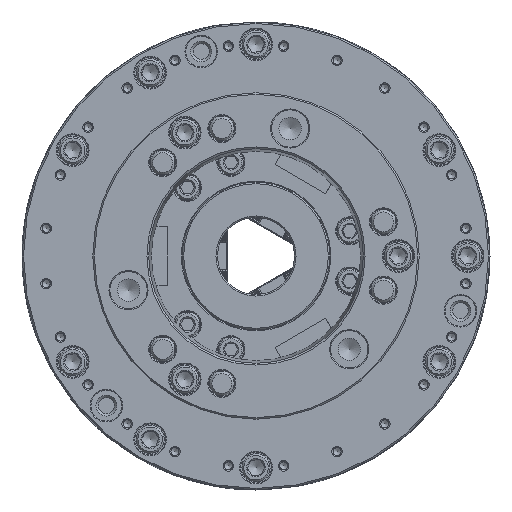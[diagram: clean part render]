
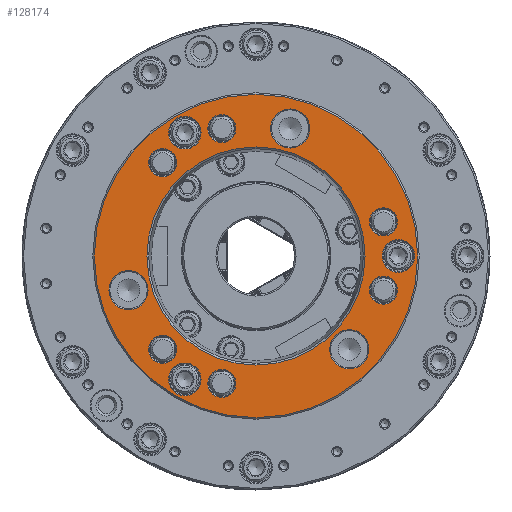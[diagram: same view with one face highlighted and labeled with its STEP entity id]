
A CAD part, left-side view. The second image highlights one B-rep face of the part: STEP entity #128174.
In plain terms, the highlighted planar face has unit normal (-1, 0, 0).
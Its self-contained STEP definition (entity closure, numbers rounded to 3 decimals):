
#539 = ORIENTED_EDGE ( 'NONE', *, *, #125011, .F. ) ;
#4553 = EDGE_LOOP ( 'NONE', ( #539 ) ) ;
#5329 = DIRECTION ( 'NONE',  ( 1., 0., 0. ) ) ;
#5654 = ORIENTED_EDGE ( 'NONE', *, *, #88174, .F. ) ;
#6091 = CIRCLE ( 'NONE', #64908, 10.6 ) ;
#6170 = VERTEX_POINT ( 'NONE', #49672 ) ;
#6752 = FACE_BOUND ( 'NONE', #137012, .T. ) ;
#6815 = EDGE_LOOP ( 'NONE', ( #113055 ) ) ;
#9761 = DIRECTION ( 'NONE',  ( -1., 0., 0. ) ) ;
#10918 = EDGE_CURVE ( 'NONE', #101487, #101487, #92688, .T. ) ;
#10974 = ORIENTED_EDGE ( 'NONE', *, *, #126502, .F. ) ;
#12929 = ORIENTED_EDGE ( 'NONE', *, *, #134703, .F. ) ;
#13613 = ORIENTED_EDGE ( 'NONE', *, *, #25719, .T. ) ;
#14922 = EDGE_LOOP ( 'NONE', ( #13613 ) ) ;
#16361 = FACE_BOUND ( 'NONE', #45541, .T. ) ;
#17038 = DIRECTION ( 'NONE',  ( 0., 0., 1. ) ) ;
#17748 = CIRCLE ( 'NONE', #121489, 10.6 ) ;
#18181 = EDGE_LOOP ( 'NONE', ( #145441 ) ) ;
#18368 = AXIS2_PLACEMENT_3D ( 'NONE', #79436, #30235, #75202 ) ;
#18403 = DIRECTION ( 'NONE',  ( 0., 0., 1. ) ) ;
#18479 = CARTESIAN_POINT ( 'NONE',  ( -125., -82.804, 22.187 ) ) ;
#19378 = VERTEX_POINT ( 'NONE', #64309 ) ;
#19409 = CARTESIAN_POINT ( 'NONE',  ( -125., -82.804, -22.187 ) ) ;
#19763 = CARTESIAN_POINT ( 'NONE',  ( -125., 22.187, 82.804 ) ) ;
#22798 = DIRECTION ( 'NONE',  ( 0., 0., 1. ) ) ;
#24456 = CARTESIAN_POINT ( 'NONE',  ( -125., 46.25, -69.507 ) ) ;
#25719 = EDGE_CURVE ( 'NONE', #85077, #85077, #60617, .T. ) ;
#27342 = CARTESIAN_POINT ( 'NONE',  ( -125., -92.5, 10.6 ) ) ;
#27423 = FACE_BOUND ( 'NONE', #138158, .T. ) ;
#27552 = CARTESIAN_POINT ( 'NONE',  ( -125., 46.25, 90.707 ) ) ;
#27678 = AXIS2_PLACEMENT_3D ( 'NONE', #36596, #134718, #92705 ) ;
#27696 = DIRECTION ( 'NONE',  ( 0., 0., -1. ) ) ;
#28176 = EDGE_CURVE ( 'NONE', #74001, #74001, #140085, .T. ) ;
#28875 = FACE_BOUND ( 'NONE', #61546, .T. ) ;
#29909 = CARTESIAN_POINT ( 'NONE',  ( -125., 0., 0. ) ) ;
#30235 = DIRECTION ( 'NONE',  ( -1., 0., 0. ) ) ;
#30646 = CARTESIAN_POINT ( 'NONE',  ( -125., -82.804, -13.087 ) ) ;
#30662 = EDGE_CURVE ( 'NONE', #6170, #6170, #64703, .T. ) ;
#32816 = ORIENTED_EDGE ( 'NONE', *, *, #30662, .T. ) ;
#33604 = EDGE_LOOP ( 'NONE', ( #96140 ) ) ;
#36596 = CARTESIAN_POINT ( 'NONE',  ( -125., -60.617, -60.617 ) ) ;
#38660 = ORIENTED_EDGE ( 'NONE', *, *, #28176, .F. ) ;
#39188 = FACE_BOUND ( 'NONE', #63906, .T. ) ;
#39191 = AXIS2_PLACEMENT_3D ( 'NONE', #84212, #5329, #107808 ) ;
#40649 = FACE_BOUND ( 'NONE', #14922, .T. ) ;
#41283 = DIRECTION ( 'NONE',  ( 1., 0., 0. ) ) ;
#42047 = VERTEX_POINT ( 'NONE', #87072 ) ;
#42384 = AXIS2_PLACEMENT_3D ( 'NONE', #19763, #75769, #142861 ) ;
#43790 = CIRCLE ( 'NONE', #97974, 12.705 ) ;
#44648 = CIRCLE ( 'NONE', #94322, 70.861 ) ;
#44667 = ORIENTED_EDGE ( 'NONE', *, *, #76300, .T. ) ;
#45541 = EDGE_LOOP ( 'NONE', ( #38660 ) ) ;
#47351 = EDGE_LOOP ( 'NONE', ( #10974 ) ) ;
#48280 = AXIS2_PLACEMENT_3D ( 'NONE', #73408, #119846, #27696 ) ;
#48832 = EDGE_CURVE ( 'NONE', #68039, #68039, #73376, .T. ) ;
#49535 = FACE_BOUND ( 'NONE', #4553, .T. ) ;
#49672 = CARTESIAN_POINT ( 'NONE',  ( -125., 82.804, -34.892 ) ) ;
#52749 = DIRECTION ( 'NONE',  ( -1., 0., 0. ) ) ;
#53076 = VERTEX_POINT ( 'NONE', #84127 ) ;
#54330 = DIRECTION ( 'NONE',  ( -1., 0., 0. ) ) ;
#54368 = CIRCLE ( 'NONE', #103825, 105. ) ;
#55244 = CARTESIAN_POINT ( 'NONE',  ( -125., 46.25, 80.107 ) ) ;
#59809 = VERTEX_POINT ( 'NONE', #24456 ) ;
#60617 = CIRCLE ( 'NONE', #27678, 12.705 ) ;
#61546 = EDGE_LOOP ( 'NONE', ( #12929 ) ) ;
#63487 = FACE_BOUND ( 'NONE', #33604, .T. ) ;
#63836 = VERTEX_POINT ( 'NONE', #108872 ) ;
#63906 = EDGE_LOOP ( 'NONE', ( #119963 ) ) ;
#64309 = CARTESIAN_POINT ( 'NONE',  ( -125., 60.617, -51.517 ) ) ;
#64703 = CIRCLE ( 'NONE', #48280, 12.705 ) ;
#64908 = AXIS2_PLACEMENT_3D ( 'NONE', #76859, #9761, #99787 ) ;
#66154 = DIRECTION ( 'NONE',  ( 0., 0., 1. ) ) ;
#68039 = VERTEX_POINT ( 'NONE', #135838 ) ;
#71706 = FACE_BOUND ( 'NONE', #47351, .T. ) ;
#71895 = AXIS2_PLACEMENT_3D ( 'NONE', #55244, #89946, #22798 ) ;
#72338 = DIRECTION ( 'NONE',  ( 0., 0., 1. ) ) ;
#72424 = FACE_BOUND ( 'NONE', #18181, .T. ) ;
#72501 = EDGE_CURVE ( 'NONE', #42047, #42047, #103659, .T. ) ;
#73376 = CIRCLE ( 'NONE', #99461, 9.1 ) ;
#73408 = CARTESIAN_POINT ( 'NONE',  ( -125., 82.804, -22.187 ) ) ;
#74001 = VERTEX_POINT ( 'NONE', #27552 ) ;
#74685 = DIRECTION ( 'NONE',  ( -1., 0., 0. ) ) ;
#75202 = DIRECTION ( 'NONE',  ( 0., 0., 1. ) ) ;
#75630 = ORIENTED_EDGE ( 'NONE', *, *, #48832, .F. ) ;
#75769 = DIRECTION ( 'NONE',  ( -1., 0., 0. ) ) ;
#76300 = EDGE_CURVE ( 'NONE', #80380, #80380, #54368, .T. ) ;
#76859 = CARTESIAN_POINT ( 'NONE',  ( -125., 46.25, -80.107 ) ) ;
#78109 = DIRECTION ( 'NONE',  ( 0., 0., 1. ) ) ;
#78570 = EDGE_LOOP ( 'NONE', ( #5654 ) ) ;
#79436 = CARTESIAN_POINT ( 'NONE',  ( -125., 22.187, -82.804 ) ) ;
#80380 = VERTEX_POINT ( 'NONE', #134934 ) ;
#84127 = CARTESIAN_POINT ( 'NONE',  ( -125., 22.187, -73.704 ) ) ;
#84212 = CARTESIAN_POINT ( 'NONE',  ( -125., 105., 0. ) ) ;
#85077 = VERTEX_POINT ( 'NONE', #96931 ) ;
#85679 = FACE_OUTER_BOUND ( 'NONE', #96800, .T. ) ;
#87072 = CARTESIAN_POINT ( 'NONE',  ( -125., 22.187, 91.904 ) ) ;
#88174 = EDGE_CURVE ( 'NONE', #63836, #63836, #44648, .T. ) ;
#89200 = CARTESIAN_POINT ( 'NONE',  ( -125., -92.5, 0. ) ) ;
#89525 = ORIENTED_EDGE ( 'NONE', *, *, #72501, .F. ) ;
#89946 = DIRECTION ( 'NONE',  ( -1., 0., 0. ) ) ;
#92688 = CIRCLE ( 'NONE', #111519, 9.1 ) ;
#92705 = DIRECTION ( 'NONE',  ( 0., 0., -1. ) ) ;
#94322 = AXIS2_PLACEMENT_3D ( 'NONE', #29909, #52749, #131626 ) ;
#96070 = FACE_BOUND ( 'NONE', #6815, .T. ) ;
#96140 = ORIENTED_EDGE ( 'NONE', *, *, #10918, .F. ) ;
#96800 = EDGE_LOOP ( 'NONE', ( #44667 ) ) ;
#96931 = CARTESIAN_POINT ( 'NONE',  ( -125., -60.617, -73.322 ) ) ;
#97974 = AXIS2_PLACEMENT_3D ( 'NONE', #122399, #41283, #120936 ) ;
#99461 = AXIS2_PLACEMENT_3D ( 'NONE', #18479, #120239, #17038 ) ;
#99787 = DIRECTION ( 'NONE',  ( 0., 0., 1. ) ) ;
#101487 = VERTEX_POINT ( 'NONE', #30646 ) ;
#103659 = CIRCLE ( 'NONE', #42384, 9.1 ) ;
#103825 = AXIS2_PLACEMENT_3D ( 'NONE', #116601, #129797, #72338 ) ;
#104849 = VERTEX_POINT ( 'NONE', #125463 ) ;
#106725 = EDGE_LOOP ( 'NONE', ( #89525 ) ) ;
#107808 = DIRECTION ( 'NONE',  ( 0., 0., -1. ) ) ;
#107988 = CIRCLE ( 'NONE', #18368, 9.1 ) ;
#108391 = DIRECTION ( 'NONE',  ( -1., 0., 0. ) ) ;
#108433 = CARTESIAN_POINT ( 'NONE',  ( -125., 60.617, 69.717 ) ) ;
#108872 = CARTESIAN_POINT ( 'NONE',  ( -125., 0., 70.861 ) ) ;
#109758 = EDGE_CURVE ( 'NONE', #19378, #19378, #140541, .T. ) ;
#111519 = AXIS2_PLACEMENT_3D ( 'NONE', #19409, #74685, #118969 ) ;
#113055 = ORIENTED_EDGE ( 'NONE', *, *, #109758, .F. ) ;
#116601 = CARTESIAN_POINT ( 'NONE',  ( -125., 0., 0. ) ) ;
#116684 = PLANE ( 'NONE',  #39191 ) ;
#118969 = DIRECTION ( 'NONE',  ( 0., 0., 1. ) ) ;
#119569 = FACE_BOUND ( 'NONE', #106725, .T. ) ;
#119846 = DIRECTION ( 'NONE',  ( 1., 0., 0. ) ) ;
#119963 = ORIENTED_EDGE ( 'NONE', *, *, #125407, .T. ) ;
#120239 = DIRECTION ( 'NONE',  ( -1., 0., 0. ) ) ;
#120936 = DIRECTION ( 'NONE',  ( 0., 0., -1. ) ) ;
#121140 = AXIS2_PLACEMENT_3D ( 'NONE', #133942, #54330, #66154 ) ;
#121489 = AXIS2_PLACEMENT_3D ( 'NONE', #89200, #123830, #78109 ) ;
#121652 = CARTESIAN_POINT ( 'NONE',  ( -125., 60.617, -60.617 ) ) ;
#122399 = CARTESIAN_POINT ( 'NONE',  ( -125., -22.187, 82.804 ) ) ;
#123585 = CIRCLE ( 'NONE', #121140, 9.1 ) ;
#123830 = DIRECTION ( 'NONE',  ( -1., 0., 0. ) ) ;
#125011 = EDGE_CURVE ( 'NONE', #59809, #59809, #6091, .T. ) ;
#125407 = EDGE_CURVE ( 'NONE', #104849, #104849, #43790, .T. ) ;
#125463 = CARTESIAN_POINT ( 'NONE',  ( -125., -22.187, 70.099 ) ) ;
#126449 = AXIS2_PLACEMENT_3D ( 'NONE', #121652, #108391, #18403 ) ;
#126502 = EDGE_CURVE ( 'NONE', #128342, #128342, #17748, .T. ) ;
#128174 = ADVANCED_FACE ( 'NONE', ( #39188, #40649, #27423, #96070, #72424, #119569, #49535, #16361, #63487, #6752, #71706, #129884, #85679, #28875 ), #116684, .F. ) ;
#128342 = VERTEX_POINT ( 'NONE', #27342 ) ;
#129797 = DIRECTION ( 'NONE',  ( -1., 0., 0. ) ) ;
#129884 = FACE_BOUND ( 'NONE', #78570, .T. ) ;
#130266 = EDGE_CURVE ( 'NONE', #53076, #53076, #107988, .T. ) ;
#131626 = DIRECTION ( 'NONE',  ( 0., 0., 1. ) ) ;
#133942 = CARTESIAN_POINT ( 'NONE',  ( -125., 60.617, 60.617 ) ) ;
#134703 = EDGE_CURVE ( 'NONE', #143042, #143042, #123585, .T. ) ;
#134718 = DIRECTION ( 'NONE',  ( 1., 0., 0. ) ) ;
#134934 = CARTESIAN_POINT ( 'NONE',  ( -125., 0., 105. ) ) ;
#135838 = CARTESIAN_POINT ( 'NONE',  ( -125., -82.804, 31.287 ) ) ;
#137012 = EDGE_LOOP ( 'NONE', ( #75630 ) ) ;
#138158 = EDGE_LOOP ( 'NONE', ( #32816 ) ) ;
#140085 = CIRCLE ( 'NONE', #71895, 10.6 ) ;
#140541 = CIRCLE ( 'NONE', #126449, 9.1 ) ;
#142861 = DIRECTION ( 'NONE',  ( 0., 0., 1. ) ) ;
#143042 = VERTEX_POINT ( 'NONE', #108433 ) ;
#145441 = ORIENTED_EDGE ( 'NONE', *, *, #130266, .F. ) ;
